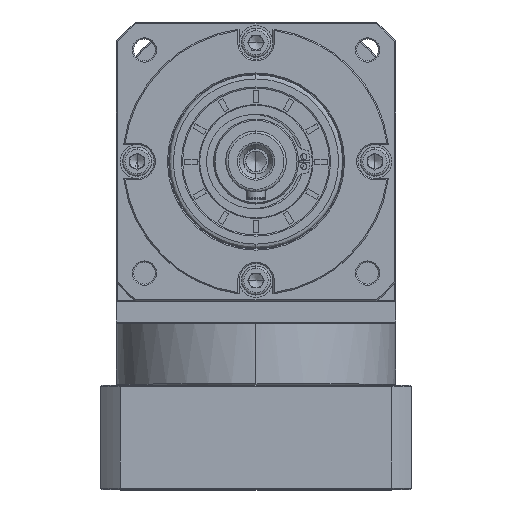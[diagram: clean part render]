
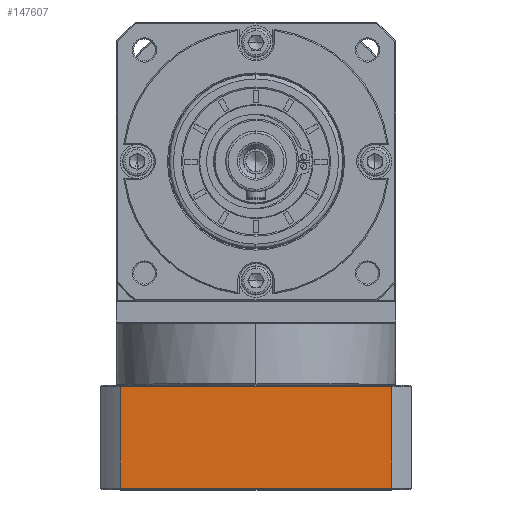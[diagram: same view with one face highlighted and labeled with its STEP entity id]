
A CAD part, top view. The second image highlights one B-rep face of the part: STEP entity #147607.
In plain terms, the highlighted planar face has unit normal (0, 0, 1).
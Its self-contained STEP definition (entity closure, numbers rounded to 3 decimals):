
#2194 = LINE ( 'NONE', #169036, #65119 ) ;
#14472 = EDGE_CURVE ( 'NONE', #109573, #36572, #172031, .T. ) ;
#26710 = EDGE_CURVE ( 'NONE', #36572, #149580, #71987, .T. ) ;
#28188 = EDGE_CURVE ( 'NONE', #168549, #109573, #50274, .T. ) ;
#30943 = CARTESIAN_POINT ( 'NONE',  ( -133.572, -176.85, 97.075 ) ) ;
#34050 = CARTESIAN_POINT ( 'NONE',  ( -245.447, -177.35, 97.075 ) ) ;
#36274 = VECTOR ( 'NONE', #103474, 1000. ) ;
#36572 = VERTEX_POINT ( 'NONE', #92542 ) ;
#36660 = CARTESIAN_POINT ( 'NONE',  ( -133.572, -134.85, 97.075 ) ) ;
#48189 = ORIENTED_EDGE ( 'NONE', *, *, #140630, .F. ) ;
#48774 = ORIENTED_EDGE ( 'NONE', *, *, #14472, .F. ) ;
#48902 = CARTESIAN_POINT ( 'NONE',  ( -253.509, -134.85, 97.075 ) ) ;
#50274 = LINE ( 'NONE', #125218, #157278 ) ;
#55045 = CARTESIAN_POINT ( 'NONE',  ( -253.509, -177.35, 97.075 ) ) ;
#65119 = VECTOR ( 'NONE', #75276, 1000. ) ;
#68124 = CARTESIAN_POINT ( 'NONE',  ( -245.447, -176.85, 97.075 ) ) ;
#68569 = DIRECTION ( 'NONE',  ( -1., 0., 0. ) ) ;
#71987 = LINE ( 'NONE', #48902, #36274 ) ;
#73788 = EDGE_LOOP ( 'NONE', ( #48189, #146507, #48774, #98795 ) ) ;
#75276 = DIRECTION ( 'NONE',  ( 0., -1., 0. ) ) ;
#87940 = AXIS2_PLACEMENT_3D ( 'NONE', #55045, #148867, #68569 ) ;
#92542 = CARTESIAN_POINT ( 'NONE',  ( -245.447, -134.85, 97.075 ) ) ;
#98795 = ORIENTED_EDGE ( 'NONE', *, *, #28188, .F. ) ;
#103474 = DIRECTION ( 'NONE',  ( 1., 0., 0. ) ) ;
#109573 = VERTEX_POINT ( 'NONE', #68124 ) ;
#125218 = CARTESIAN_POINT ( 'NONE',  ( -253.509, -176.85, 97.075 ) ) ;
#134890 = PLANE ( 'NONE',  #87940 ) ;
#136488 = VECTOR ( 'NONE', #141400, 1000. ) ;
#139312 = DIRECTION ( 'NONE',  ( -1., 0., 0. ) ) ;
#140630 = EDGE_CURVE ( 'NONE', #149580, #168549, #2194, .T. ) ;
#141400 = DIRECTION ( 'NONE',  ( 0., 1., 0. ) ) ;
#146507 = ORIENTED_EDGE ( 'NONE', *, *, #26710, .F. ) ;
#147607 = ADVANCED_FACE ( 'NONE', ( #148866 ), #134890, .F. ) ;
#148866 = FACE_OUTER_BOUND ( 'NONE', #73788, .T. ) ;
#148867 = DIRECTION ( 'NONE',  ( 0., 0., -1. ) ) ;
#149580 = VERTEX_POINT ( 'NONE', #36660 ) ;
#157278 = VECTOR ( 'NONE', #139312, 1000. ) ;
#168549 = VERTEX_POINT ( 'NONE', #30943 ) ;
#169036 = CARTESIAN_POINT ( 'NONE',  ( -133.572, 118.064, 97.075 ) ) ;
#172031 = LINE ( 'NONE', #34050, #136488 ) ;
